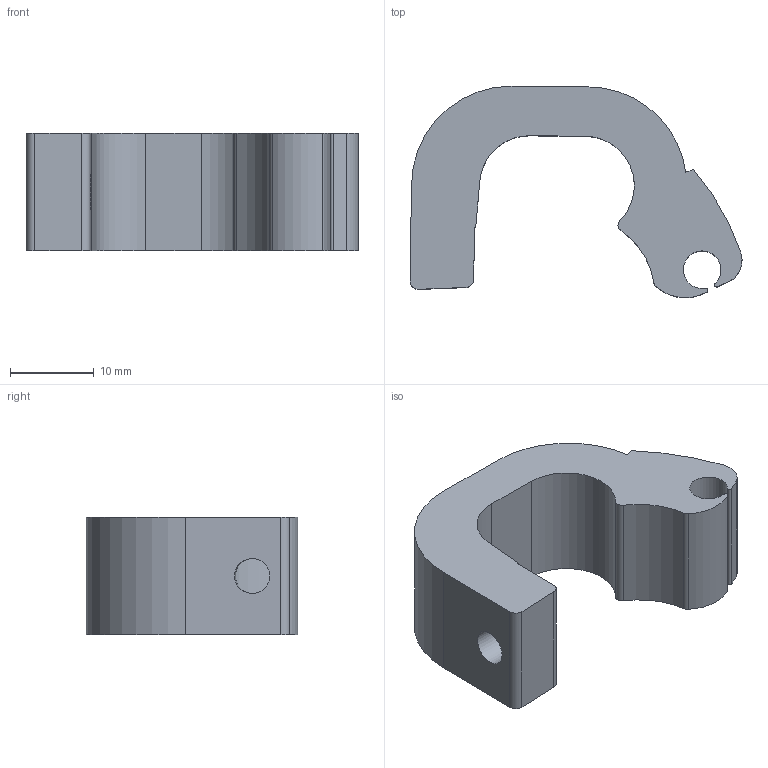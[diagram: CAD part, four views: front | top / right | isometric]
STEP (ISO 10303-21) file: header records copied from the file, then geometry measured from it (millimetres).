
FILE_DESCRIPTION( ( 'Unknown' ), '1' );
FILE_NAME( 'Z:/bereich/BECH/Services/me_CAD/Solid Edge/Models/Dokumentationen/Magnetoresitiv/Zuberhörteile/Vereinfachte Modelle/Neutralformate/st-83.stp', 'Unknown', ( 'Unknown' ), ( 'Unknown' ), 'XStep 1.0', 'Unknown', ' ' );
FILE_SCHEMA( ( 'CONFIG_CONTROL_DESIGN' ) );
Length unit declared in the file: millimetre
Products named in the file (1): 1
Bounding box: 39.73 x 25.31 x 14 mm (x, y, z)
Volume: 6307.8 mm3; surface area: 3154.1 mm2
Topology: 1 solids, 1 shells, 27 faces, 75 edges, 50 vertices
Faces by surface type: cylinder 16, plane 11
Full cylindrical faces by diameter (mm): 4.2 x1
Entity records: 924 total; most frequent: DIRECTION 162, CARTESIAN_POINT 152, ORIENTED_EDGE 148, EDGE_CURVE 74, AXIS2_PLACEMENT_3D 60, VERTEX_POINT 50, LINE 42, VECTOR 42
